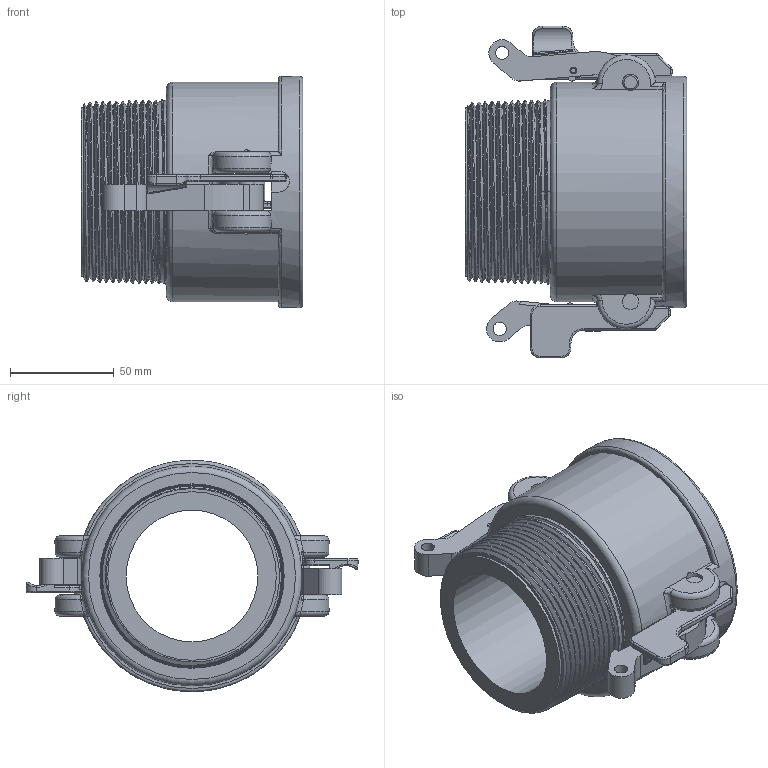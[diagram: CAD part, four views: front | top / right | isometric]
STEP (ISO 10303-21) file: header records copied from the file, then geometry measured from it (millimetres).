
FILE_DESCRIPTION(/* description */ ('Alibre Inc.'),/* implementation_level */ '2;1');
FILE_NAME(/* name */ 'export0',/* time_stamp */ '2016-02-22T11:46:35-05:00',/* author */ (''),/* organization */ (''),/* preprocessor_version */ 'ST-DEVELOPER v14',/* originating_system */ 'Alibre',/* authorisation */ '');
FILE_SCHEMA (('CONFIG_CONTROL_DESIGN'));
Length unit declared in the file: centimetre
Products named in the file (6): ID_1; ID_2; ID_3; ID_4
Bounding box: 106.93 x 160.02 x 111.51 mm (x, y, z)
Volume: 344696.3 mm3; surface area: 108372.3 mm2
Topology: 8 solids, 8 shells, 346 faces, 878 edges, 548 vertices
Faces by surface type: cylinder 122, plane 98, torus 58, cone 40, bspline 24, sphere 4
Full cylindrical faces by diameter (mm): 6.35 x2, 7.874 x4, 7.925 x4, 8.179 x4, 63.5 x1, 76.2 x1, 81.28 x1, 92.71 x1, 94.488 x1, 96.012 x1, 105.918 x1, 111.506 x1
Entity records: 52557 total; most frequent: CARTESIAN_POINT 46541, ORIENTED_EDGE 1172, DIRECTION 970, EDGE_CURVE 586, AXIS2_PLACEMENT_3D 431, VERTEX_POINT 382, EDGE_LOOP 278, FACE_BOUND 278
